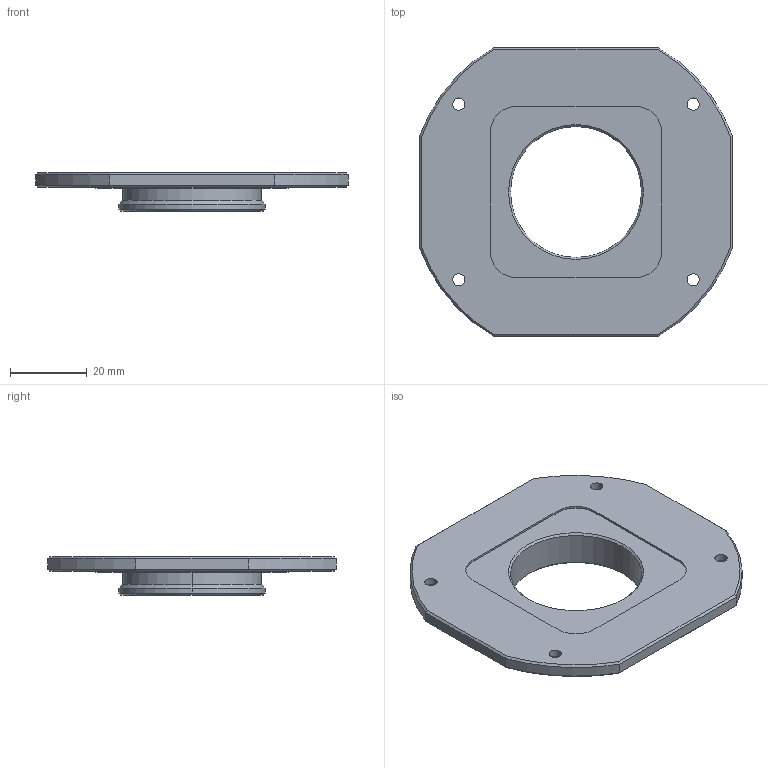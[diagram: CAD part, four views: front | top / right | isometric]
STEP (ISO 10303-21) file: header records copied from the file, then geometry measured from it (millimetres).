
FILE_DESCRIPTION (( 'STEP AP214' ), '1' );
FILE_NAME ('FLX-BXY-AO-C60M (FLX-BXY-A-1001-C60) (CATALOG MODEL).STEP', '2026-08-04T21:23:49', ( '' ), ( '' ), 'SwSTEP 2.0', 'SolidWorks 2025', '' );
FILE_SCHEMA (( 'AUTOMOTIVE_DESIGN' ));
Length unit declared in the file: inch
Products named in the file (1): FLX-BXY-AO-C60M (FLX-BXY-A-1001-C60) (CATALOG MODEL)
Bounding box: 81.28 x 74.93 x 9.98 mm (x, y, z)
Volume: 17205.8 mm3; surface area: 11824.1 mm2
Topology: 1 solids, 1 shells, 69 faces, 158 edges, 94 vertices
Faces by surface type: cylinder 24, cone 24, plane 21
Entity records: 1993 total; most frequent: CARTESIAN_POINT 370, DIRECTION 352, ORIENTED_EDGE 316, EDGE_CURVE 158, AXIS2_PLACEMENT_3D 140, VERTEX_POINT 94, EDGE_LOOP 82, VECTOR 72
